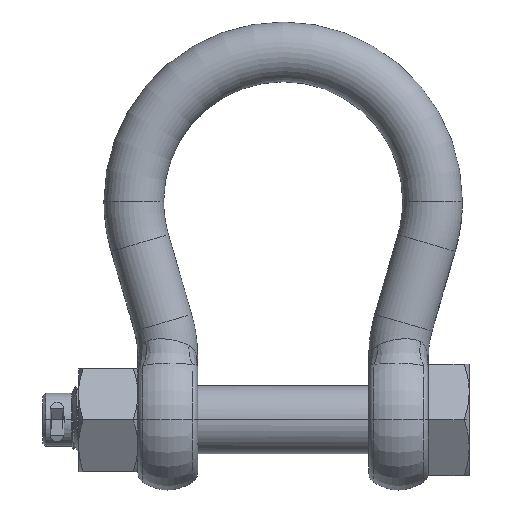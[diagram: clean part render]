
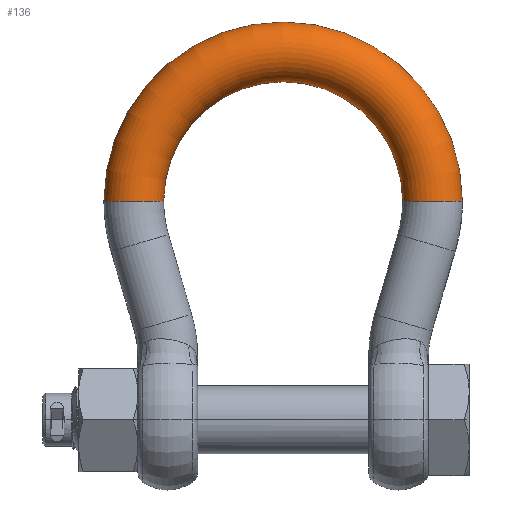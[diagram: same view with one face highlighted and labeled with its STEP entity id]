
A CAD part, top view. The second image highlights one B-rep face of the part: STEP entity #136.
In plain terms, the highlighted toroidal (fillet/blend) face has major radius 55 mm and minor radius 11 mm.
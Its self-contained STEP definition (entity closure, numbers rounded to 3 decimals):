
#136=ADVANCED_FACE('',(#807),#808,.T.);
#807=FACE_OUTER_BOUND('',#2105,.T.);
#808=TOROIDAL_SURFACE('',#2106,55.0,11.0);
#2105=EDGE_LOOP('',(#9410,#9411,#9412,#9413));
#2106=AXIS2_PLACEMENT_3D('',#9414,#9415,#9416);
#9410=ORIENTED_EDGE('',*,*,#14078,.F.);
#9411=ORIENTED_EDGE('',*,*,#14129,.F.);
#9412=ORIENTED_EDGE('',*,*,#14079,.T.);
#9413=ORIENTED_EDGE('',*,*,#14130,.T.);
#9414=CARTESIAN_POINT('',(0.0,0.0,0.0));
#9415=DIRECTION('',(0.0,0.0,-1.0));
#9416=DIRECTION('',(-1.0,0.0,0.0));
#14078=EDGE_CURVE('',#15879,#15684,#15884,.T.);
#14079=EDGE_CURVE('',#15881,#15685,#15885,.T.);
#14129=EDGE_CURVE('',#15881,#15879,#15971,.T.);
#14130=EDGE_CURVE('',#15685,#15684,#15972,.T.);
#15684=VERTEX_POINT('',#18669);
#15685=VERTEX_POINT('',#18670);
#15879=VERTEX_POINT('',#19234);
#15881=VERTEX_POINT('',#19236);
#15884=CIRCLE('',#19239,66.0);
#15885=CIRCLE('',#19240,44.0);
#15971=CIRCLE('',#19446,11.0);
#15972=CIRCLE('',#19447,11.0);
#18669=CARTESIAN_POINT('',(66.0,0.,0.0));
#18670=CARTESIAN_POINT('',(44.0,0.,0.0));
#19234=CARTESIAN_POINT('',(-66.0,0.0,0.0));
#19236=CARTESIAN_POINT('',(-44.0,0.0,0.));
#19239=AXIS2_PLACEMENT_3D('',#29839,#29840,#29841);
#19240=AXIS2_PLACEMENT_3D('',#29842,#29843,#29844);
#19446=AXIS2_PLACEMENT_3D('',#29947,#29948,#29949);
#19447=AXIS2_PLACEMENT_3D('',#29950,#29951,#29952);
#29839=CARTESIAN_POINT('',(0.0,0.0,0.0));
#29840=DIRECTION('',(0.0,0.0,-1.0));
#29841=DIRECTION('',(-1.0,0.0,0.0));
#29842=CARTESIAN_POINT('',(0.0,0.0,0.));
#29843=DIRECTION('',(0.0,0.0,-1.0));
#29844=DIRECTION('',(-1.0,0.0,0.0));
#29947=CARTESIAN_POINT('',(-55.0,0.0,0.0));
#29948=DIRECTION('',(0.0,-1.0,0.0));
#29949=DIRECTION('',(0.0,0.0,-1.0));
#29950=CARTESIAN_POINT('',(55.0,0.,0.0));
#29951=DIRECTION('',(0.,1.0,0.0));
#29952=DIRECTION('',(-1.0,0.,0.0));
